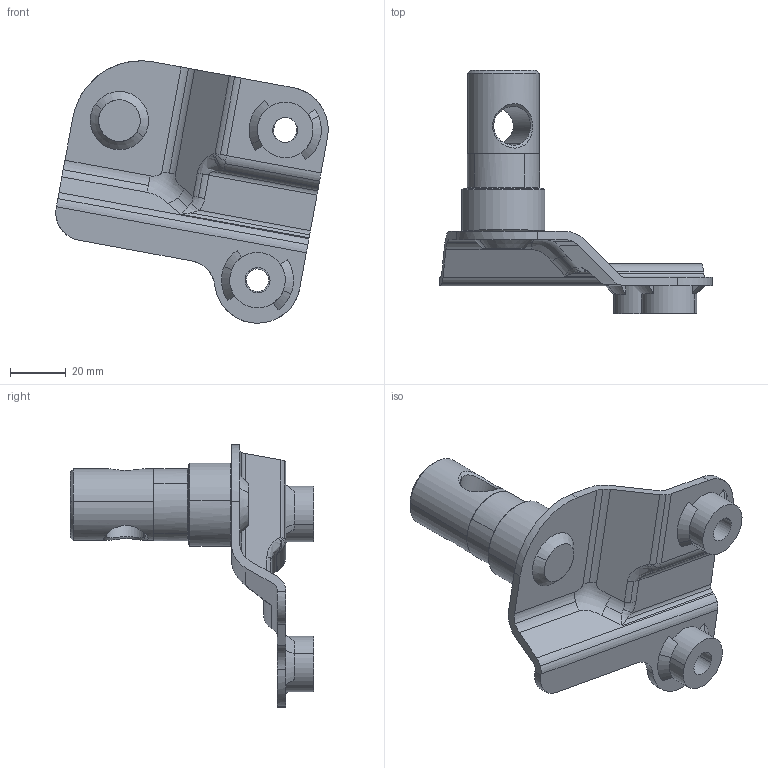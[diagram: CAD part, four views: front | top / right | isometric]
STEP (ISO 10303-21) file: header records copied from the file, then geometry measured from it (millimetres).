
FILE_DESCRIPTION(('CATIA V5 STEP Exchange'),'2;1');
FILE_NAME('F:\福田A6\1-数据\6-冻结数据\第三批\SHT0016861 右扶手支架总成\SHT0016861.stp','2024-02-20T08:13:26+00:00',('none'),('none'),'CATIA Version 5 Release 20 GA (IN-10)','CATIA V5 STEP AP214','none');
FILE_SCHEMA(('AUTOMOTIVE_DESIGN { 1 0 10303 214 1 1 1 1 }'));
Length unit declared in the file: millimetre
Products named in the file (1): SHT0016861
Bounding box: 98.11 x 87.5 x 94.49 mm (x, y, z)
Volume: 56908.4 mm3; surface area: 26522.9 mm2
Topology: 9 solids, 9 shells, 150 faces, 360 edges, 225 vertices
Faces by surface type: cylinder 72, plane 42, cone 21, bspline 12, sphere 3
Entity records: 8436 total; most frequent: CARTESIAN_POINT 5218, ORIENTED_EDGE 710, DIRECTION 488, EDGE_CURVE 355, VERTEX_POINT 225, AXIS2_PLACEMENT_3D 221, EDGE_LOOP 166, ADVANCED_FACE 150
